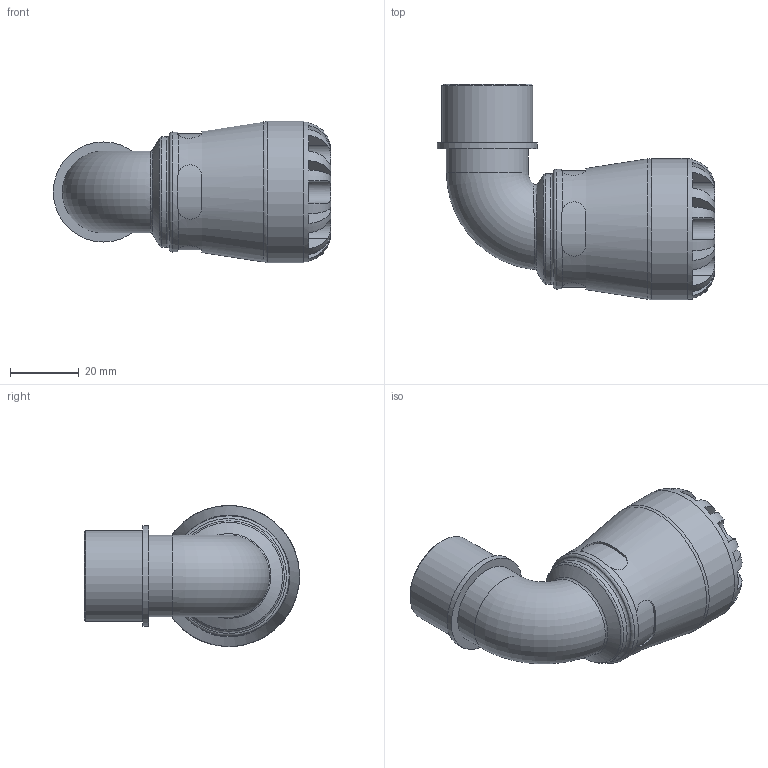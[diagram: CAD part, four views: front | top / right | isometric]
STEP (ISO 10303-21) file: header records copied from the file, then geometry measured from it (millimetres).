
FILE_DESCRIPTION(/* description */ ('PLASSON 90° ELBOW WITH THREADED MALE OFFTAKE 20X3/4" SERIES 1'),/* implementation_level */ '2;1');
FILE_NAME(/* name */ 'C:\Dropbox\KIMPROJECTS-Inventor\99-16-3568-Processing\1085\108500020007_198500020007.ipt.stp',/* time_stamp */ '2017-01-22T11:49:13+02:00',/* author */ ('KIM'),/* organization */ (''),/* preprocessor_version */ 'ST-DEVELOPER v15.6',/* originating_system */ 'Autodesk Inventor 2015',/* authorisation */ '');
FILE_SCHEMA (('AUTOMOTIVE_DESIGN { 1 0 10303 214 3 1 1 }'));
Length unit declared in the file: millimetre
Products named in the file (1): 108500020007_198500020007
Bounding box: 80.54 x 62.5 x 41 mm (x, y, z)
Volume: 48963.5 mm3; surface area: 18753.4 mm2
Topology: 1 solids, 1 shells, 110 faces, 279 edges, 174 vertices
Faces by surface type: plane 61, cylinder 37, torus 7, bspline 3, cone 2
Full cylindrical faces by diameter (mm): 18.509 x2, 20 x1, 23.797 x1, 26.441 x1, 29.085 x1, 31.98 x1, 34.85 x1, 41 x1
Entity records: 4380 total; most frequent: CARTESIAN_POINT 1788, ORIENTED_EDGE 510, DIRECTION 493, EDGE_CURVE 255, AXIS2_PLACEMENT_3D 206, VERTEX_POINT 168, EDGE_LOOP 133, STYLED_ITEM 111
